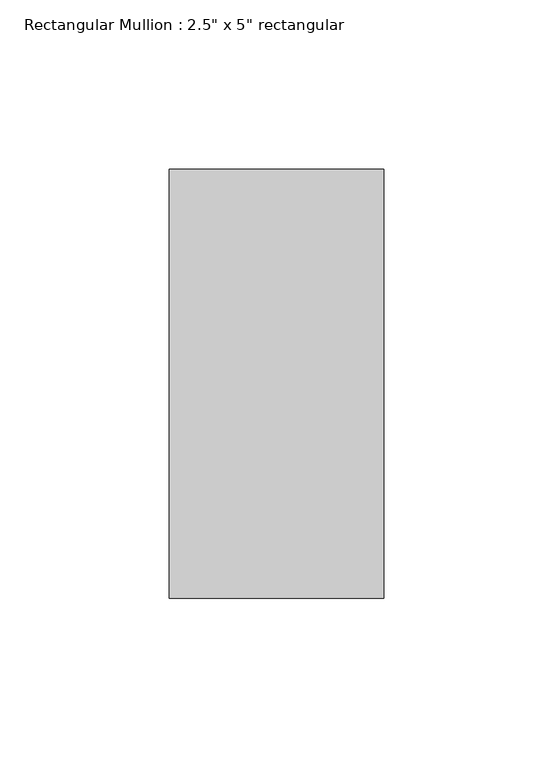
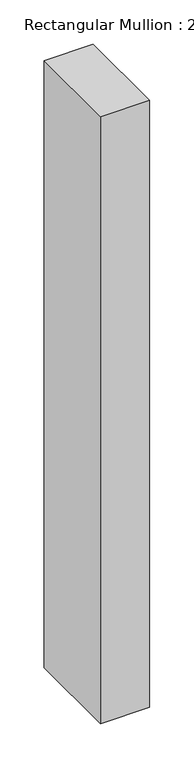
"""IFC4 building model written with IfcOpenShell, lengths in millimetres: member geometry."""

from ifc_helpers import new_model, si_unit, frame, origin, place, context, project, spatial, polyline, outline, extrude, source, transform, mapped, element, save


def member_7ffbafd8(model_context):
    return source(origin(), model_context, "Body", "SweptSolid", [
        extrude(outline(polyline([(0.0, 63.5), (0.0, -63.5), (-63.5, -63.5), (-63.5, 63.5), (0.0, 63.5)])), frame((0.0, 0.0, -834.39), z_axis=(0.0, 0.0, 1.0), x_axis=(1.0, 0.0, 0.0)), (0.0, 0.0, 1.0), 834.39),
    ])


if __name__ == "__main__":
    model = new_model("IFC4")
    model_context = context("Model", 3, world=origin())
    ifc_project = project(units=[si_unit("LENGTHUNIT", "METRE", prefix="MILLI")], contexts=[model_context])
    site = spatial("IfcSite", under=ifc_project)
    building = spatial("IfcBuilding", under=site)
    placement = place(None, origin())
    member_shape = member_7ffbafd8(model_context)
    element("IfcMember", 1, ObjectType="Rectangular Mullion : 2.5\" x 5\" rectangular", at=placement, inside=building, context=model_context, shape_type="MappedRepresentation", body=[
        mapped(member_shape, transform((0.0, 0.0, 0.0), x_axis=(1.0, 0.0, 0.0), y_axis=(0.0, 1.0, 0.0), z_axis=(0.0, 0.0, 1.0))),
    ])
    save(model, "model.ifc")
